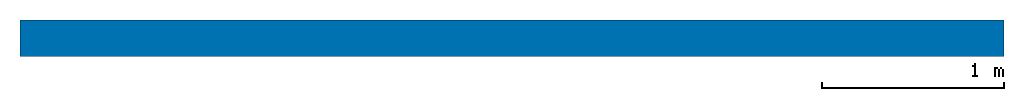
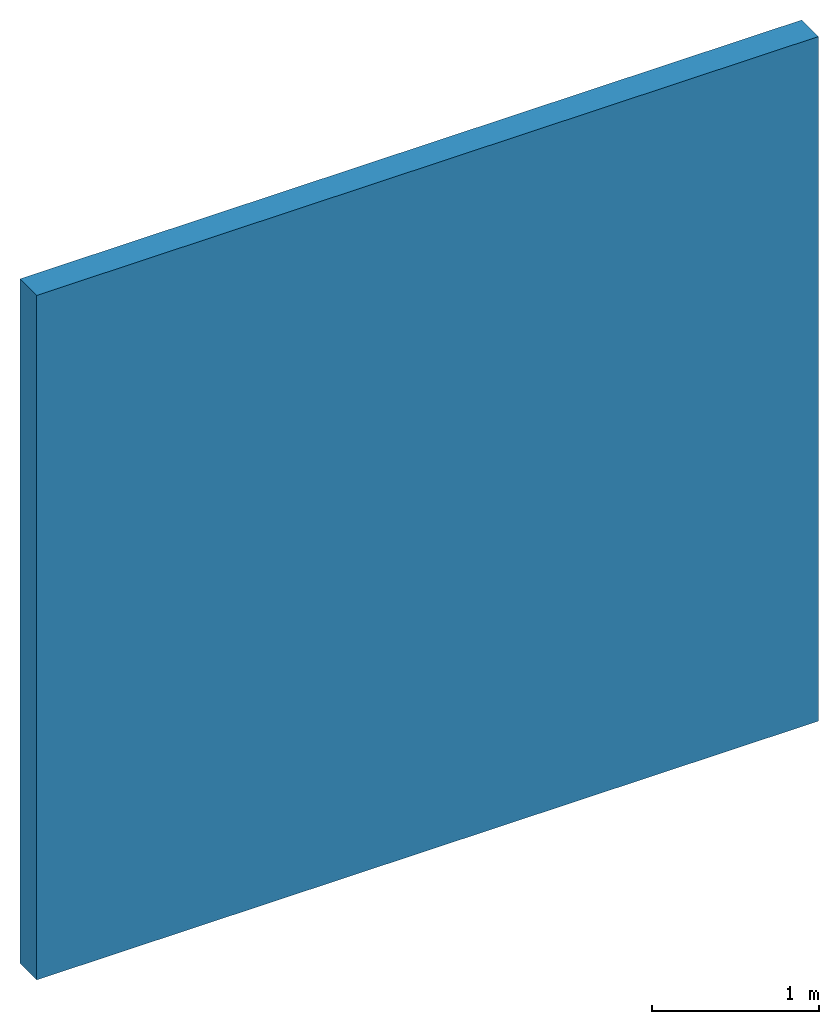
# One storey: 1 wall.
"""IFC2X3 building model written with IfcOpenShell, lengths in millimetres."""

from ifc_helpers import new_model, entity, si_unit, converted_unit, origin, origin_with_axes, place, context, project, spatial, faceted_brep, element, save


model = new_model("IFC2X3")

# Units and contexts
model_context = context("Model", 3, precision=1e-05, world=origin())
ifc_project = project(units=[si_unit("LENGTHUNIT", "METRE", prefix="MILLI"), si_unit("AREAUNIT", "SQUARE_METRE"), si_unit("VOLUMEUNIT", "CUBIC_METRE"), converted_unit("PLANEANGLEUNIT", "DEGREE", entity("IfcPlaneAngleMeasure", 0.01745), si_unit("PLANEANGLEUNIT", "RADIAN"), dimensions=[0, 0, 0, 0, 0, 0, 0]), si_unit("SOLIDANGLEUNIT", "STERADIAN"), si_unit("MASSUNIT", "GRAM"), si_unit("TIMEUNIT", "SECOND"), si_unit("THERMODYNAMICTEMPERATUREUNIT", "DEGREE_CELSIUS"), si_unit("LUMINOUSINTENSITYUNIT", "LUMEN")], contexts=[model_context])

# Site, building, storey
site_placement = place(None, origin_with_axes())
site = spatial("IfcSite", under=ifc_project, at=site_placement, Name="Default Site", CompositionType="ELEMENT")
building_placement = place(site_placement, origin_with_axes())
building = spatial("IfcBuilding", under=site, at=building_placement, Name="Default Building", CompositionType="ELEMENT")
storey_placement = place(building_placement, origin_with_axes())
storey = spatial("IfcBuildingStorey", under=building, at=storey_placement, Name="Default Building Storey", CompositionType="ELEMENT", Elevation=0.0)

# Wall
wall_placement = place(storey_placement, origin_with_axes())
element("IfcWall", 1, at=wall_placement, inside=storey, Name="Wall xyz", context=model_context, shape_type="Brep", body=[
    faceted_brep([(0.0, 0.0, 0.0), (0.0, 200.0, 0.0), (5400.0, 200.0, 0.0), (5400.0, 0.0, 0.0), (0.0, 0.0, 5000.0), (5400.0, 0.0, 5000.0), (5400.0, 200.0, 5000.0), (0.0, 200.0, 5000.0)], [[[0, 1, 2, 3]], [[4, 5, 6, 7]], [[0, 4, 7, 1]], [[1, 7, 6, 2]], [[2, 6, 5, 3]], [[3, 5, 4, 0]]]),
])

save(model, "model.ifc")
